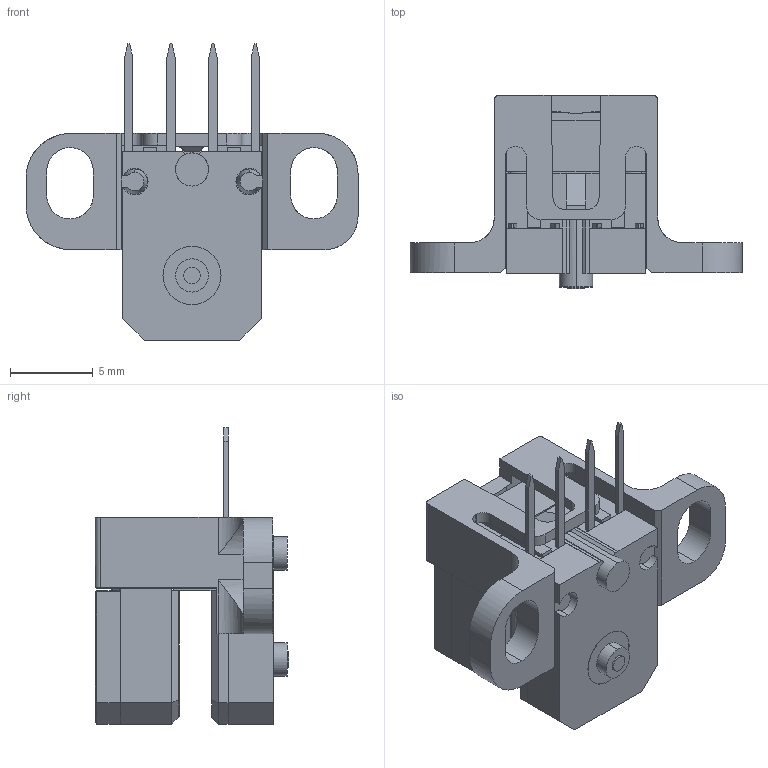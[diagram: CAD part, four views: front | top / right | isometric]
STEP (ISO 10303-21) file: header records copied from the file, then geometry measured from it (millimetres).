
FILE_DESCRIPTION (( 'STEP AP214' ), '1' );
FILE_NAME ('RS97眻褒湍嫉嗡.STEP', '2024-05-29T04:02:03', ( 'dell' ), ( '' ), 'SwSTEP 2.0', 'SolidWorks 2021', '' );
FILE_SCHEMA (( 'AUTOMOTIVE_DESIGN' ));
Length unit declared in the file: millimetre
Products named in the file (1): RS97眻褒湍嫉嗡
Bounding box: 20 x 11.65 x 17.85 mm (x, y, z)
Volume: 1038.9 mm3; surface area: 1495.3 mm2
Topology: 11 solids, 11 shells, 337 faces, 881 edges, 567 vertices
Faces by surface type: plane 223, cylinder 90, bspline 16, cone 8
Entity records: 15386 total; most frequent: CARTESIAN_POINT 3532, ORIENTED_EDGE 1758, DIRECTION 1476, EDGE_CURVE 879, LINE 652, VECTOR 652, VERTEX_POINT 567, AXIS2_PLACEMENT_3D 412
